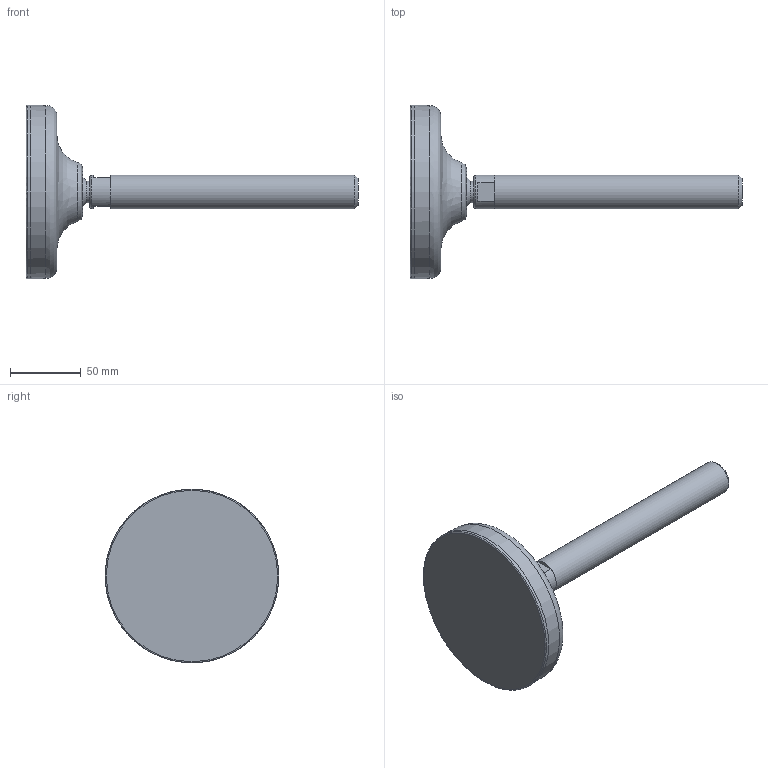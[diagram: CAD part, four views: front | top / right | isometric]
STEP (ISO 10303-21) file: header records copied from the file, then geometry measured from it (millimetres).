
FILE_DESCRIPTION(('STEP AP203'),'2;1');
FILE_NAME('10199.stp','2015-12-28T07:22:03',(''),(''),'2008.1.107','THINKDESIGN','');
FILE_SCHEMA(('CONFIG_CONTROL_DESIGN'));
Length unit declared in the file: millimetre
Bounding box: 235.03 x 123 x 123 mm (x, y, z)
Volume: 376832.2 mm3; surface area: 72497.8 mm2
Topology: 5 solids, 5 shells, 27 faces, 59 edges, 43 vertices
Faces by surface type: plane 15, bspline 8, cylinder 4
Full cylindrical faces by diameter (mm): 15.5 x1, 24 x2, 123 x1
Entity records: 1636 total; most frequent: CARTESIAN_POINT 923, DIRECTION 142, ORIENTED_EDGE 118, AXIS2_PLACEMENT_3D 64, EDGE_CURVE 59, CIRCLE 45, VERTEX_POINT 43, EDGE_LOOP 28
